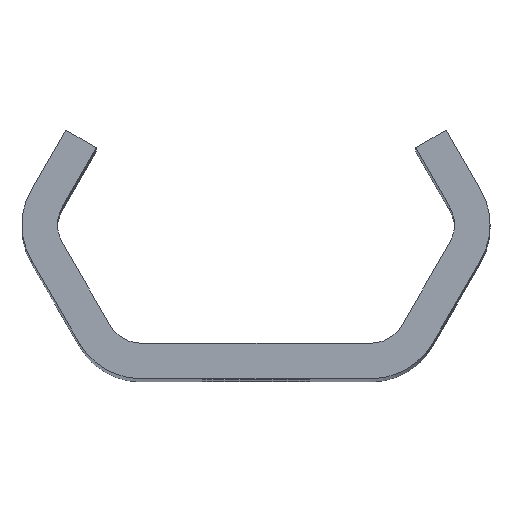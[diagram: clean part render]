
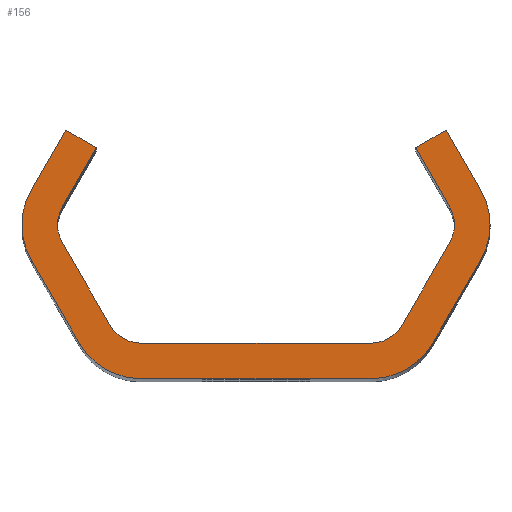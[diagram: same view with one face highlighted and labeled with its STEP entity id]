
A CAD part, top view. The second image highlights one B-rep face of the part: STEP entity #156.
In plain terms, the highlighted planar face has unit normal (0, 0, 1).
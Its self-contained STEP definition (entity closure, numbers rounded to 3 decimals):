
#156=ADVANCED_FACE('NONE',(#380),#381,.F.);
#380=FACE_OUTER_BOUND('',#1008,.T.);
#381=PLANE('',#1009);
#1008=EDGE_LOOP('',(#1962,#1963,#1964,#1965,#1966,#1967,#1968,#1969,#1970,#1971,#1972,#1973,#1974,#1975,#1976,#1977,#1978,#1979,#1980,#1981,#1982,#1983,#1984,#1985));
#1009=AXIS2_PLACEMENT_3D('',#1986,#1987,#1988);
#1962=ORIENTED_EDGE('',*,*,#2653,.T.);
#1963=ORIENTED_EDGE('',*,*,#2666,.T.);
#1964=ORIENTED_EDGE('',*,*,#2568,.T.);
#1965=ORIENTED_EDGE('',*,*,#2655,.T.);
#1966=ORIENTED_EDGE('',*,*,#2667,.T.);
#1967=ORIENTED_EDGE('',*,*,#2659,.T.);
#1968=ORIENTED_EDGE('',*,*,#2668,.T.);
#1969=ORIENTED_EDGE('',*,*,#2575,.T.);
#1970=ORIENTED_EDGE('',*,*,#2669,.T.);
#1971=ORIENTED_EDGE('',*,*,#2531,.T.);
#1972=ORIENTED_EDGE('',*,*,#2578,.T.);
#1973=ORIENTED_EDGE('',*,*,#2584,.T.);
#1974=ORIENTED_EDGE('',*,*,#2587,.T.);
#1975=ORIENTED_EDGE('',*,*,#2565,.T.);
#1976=ORIENTED_EDGE('',*,*,#2670,.T.);
#1977=ORIENTED_EDGE('',*,*,#2589,.T.);
#1978=ORIENTED_EDGE('',*,*,#2671,.T.);
#1979=ORIENTED_EDGE('',*,*,#2596,.T.);
#1980=ORIENTED_EDGE('',*,*,#2672,.T.);
#1981=ORIENTED_EDGE('',*,*,#2640,.T.);
#1982=ORIENTED_EDGE('',*,*,#2673,.T.);
#1983=ORIENTED_EDGE('',*,*,#2526,.T.);
#1984=ORIENTED_EDGE('',*,*,#2643,.T.);
#1985=ORIENTED_EDGE('',*,*,#2649,.T.);
#1986=CARTESIAN_POINT('',(0.0,0.0,160.0));
#1987=DIRECTION('',(0.0,0.0,-1.0));
#1988=DIRECTION('',(0.0,-1.0,0.0));
#2526=EDGE_CURVE('NONE',#2840,#2844,#2846,.T.);
#2531=EDGE_CURVE('NONE',#2849,#2853,#2855,.T.);
#2565=EDGE_CURVE('NONE',#2916,#2914,#2917,.T.);
#2568=EDGE_CURVE('NONE',#2920,#2921,#2922,.T.);
#2575=EDGE_CURVE('NONE',#2934,#2932,#2935,.T.);
#2578=EDGE_CURVE('NONE',#2853,#2938,#2939,.T.);
#2584=EDGE_CURVE('NONE',#2938,#2946,#2948,.T.);
#2587=EDGE_CURVE('NONE',#2946,#2916,#2951,.T.);
#2589=EDGE_CURVE('NONE',#2953,#2954,#2955,.T.);
#2596=EDGE_CURVE('NONE',#2967,#2965,#2968,.T.);
#2640=EDGE_CURVE('NONE',#3050,#3048,#3051,.T.);
#2643=EDGE_CURVE('NONE',#2844,#3054,#3055,.T.);
#2649=EDGE_CURVE('NONE',#3054,#3062,#3064,.T.);
#2653=EDGE_CURVE('NONE',#3062,#3068,#3070,.T.);
#2655=EDGE_CURVE('NONE',#2921,#3072,#3073,.T.);
#2659=EDGE_CURVE('NONE',#3078,#3079,#3080,.T.);
#2666=EDGE_CURVE('NONE',#3068,#2920,#3089,.T.);
#2667=EDGE_CURVE('NONE',#3072,#3078,#3090,.T.);
#2668=EDGE_CURVE('NONE',#3079,#2934,#3091,.T.);
#2669=EDGE_CURVE('NONE',#2932,#2849,#3092,.T.);
#2670=EDGE_CURVE('NONE',#2914,#2953,#3093,.T.);
#2671=EDGE_CURVE('NONE',#2954,#2967,#3094,.T.);
#2672=EDGE_CURVE('NONE',#2965,#3050,#3095,.T.);
#2673=EDGE_CURVE('NONE',#3048,#2840,#3096,.T.);
#2840=VERTEX_POINT('',#3308);
#2844=VERTEX_POINT('NONE',#3313);
#2846=CIRCLE('',#3316,3.0);
#2849=VERTEX_POINT('',#3319);
#2853=VERTEX_POINT('NONE',#3324);
#2855=CIRCLE('',#3327,6.0);
#2914=VERTEX_POINT('NONE',#3740);
#2916=VERTEX_POINT('NONE',#3743);
#2917=CIRCLE('',#3744,3.0);
#2920=VERTEX_POINT('NONE',#3748);
#2921=VERTEX_POINT('NONE',#3749);
#2922=CIRCLE('',#3750,6.0);
#2932=VERTEX_POINT('NONE',#3763);
#2934=VERTEX_POINT('NONE',#3766);
#2935=LINE('',#3767,#3768);
#2938=VERTEX_POINT('NONE',#3772);
#2939=LINE('',#3773,#3774);
#2946=VERTEX_POINT('NONE',#3784);
#2948=LINE('',#3787,#3788);
#2951=LINE('',#3792,#3793);
#2953=VERTEX_POINT('NONE',#3795);
#2954=VERTEX_POINT('NONE',#3796);
#2955=LINE('',#3797,#3798);
#2965=VERTEX_POINT('NONE',#3812);
#2967=VERTEX_POINT('NONE',#3815);
#2968=LINE('',#3816,#3817);
#3048=VERTEX_POINT('NONE',#4099);
#3050=VERTEX_POINT('NONE',#4102);
#3051=LINE('',#4103,#4104);
#3054=VERTEX_POINT('NONE',#4108);
#3055=LINE('',#4109,#4110);
#3062=VERTEX_POINT('NONE',#4120);
#3064=LINE('',#4123,#4124);
#3068=VERTEX_POINT('NONE',#4129);
#3070=LINE('',#4132,#4133);
#3072=VERTEX_POINT('NONE',#4135);
#3073=LINE('',#4136,#4137);
#3078=VERTEX_POINT('NONE',#4144);
#3079=VERTEX_POINT('NONE',#4145);
#3080=LINE('',#4146,#4147);
#3089=CIRCLE('',#4159,6.0);
#3090=CIRCLE('',#4160,6.0);
#3091=CIRCLE('',#4161,6.0);
#3092=CIRCLE('',#4162,6.0);
#3093=CIRCLE('',#4163,3.0);
#3094=CIRCLE('',#4164,3.0);
#3095=CIRCLE('',#4165,3.0);
#3096=CIRCLE('',#4166,3.0);
#3308=CARTESIAN_POINT('',(-16.764,0.,160.0));
#3313=CARTESIAN_POINT('',(-16.362,1.5,160.0));
#3316=AXIS2_PLACEMENT_3D('',#4831,#4832,#4833);
#3319=CARTESIAN_POINT('',(19.764,0.,160.0));
#3324=CARTESIAN_POINT('',(18.96,3.,160.0));
#3327=AXIS2_PLACEMENT_3D('',#4839,#4840,#4841);
#3740=CARTESIAN_POINT('',(16.764,0.,160.0));
#3743=CARTESIAN_POINT('',(16.362,1.5,160.0));
#3744=AXIS2_PLACEMENT_3D('',#4870,#4871,#4872);
#3748=CARTESIAN_POINT('',(-19.764,0.,160.0));
#3749=CARTESIAN_POINT('',(-18.96,-3.,160.0));
#3750=AXIS2_PLACEMENT_3D('',#4874,#4875,#4876);
#3763=CARTESIAN_POINT('',(18.96,-3.,160.0));
#3766=CARTESIAN_POINT('',(14.919,-10.,160.0));
#3767=CARTESIAN_POINT('',(20.692,0.,160.0));
#3768=VECTOR('',#4884,1000.0);
#3772=CARTESIAN_POINT('',(16.074,8.,160.0));
#3773=CARTESIAN_POINT('',(16.074,8.,160.0));
#3774=VECTOR('',#4886,1000.0);
#3784=CARTESIAN_POINT('',(13.475,6.5,160.0));
#3787=CARTESIAN_POINT('',(13.475,6.5,160.0));
#3788=VECTOR('',#4891,1000.0);
#3792=CARTESIAN_POINT('',(17.228,0.,160.0));
#3793=VECTOR('',#4893,1000.0);
#3795=CARTESIAN_POINT('',(16.362,-1.5,160.0));
#3796=CARTESIAN_POINT('',(12.321,-8.5,160.0));
#3797=CARTESIAN_POINT('',(11.455,-10.0,160.0));
#3798=VECTOR('',#4894,1000.0);
#3812=CARTESIAN_POINT('',(-9.723,-10.0,160.0));
#3815=CARTESIAN_POINT('',(9.723,-10.0,160.0));
#3816=CARTESIAN_POINT('',(-11.455,-10.0,160.0));
#3817=VECTOR('',#4900,1000.0);
#4099=CARTESIAN_POINT('',(-16.362,-1.5,160.0));
#4102=CARTESIAN_POINT('',(-12.321,-8.5,160.0));
#4103=CARTESIAN_POINT('',(-17.228,0.,160.0));
#4104=VECTOR('',#4943,1000.0);
#4108=CARTESIAN_POINT('',(-13.475,6.5,160.0));
#4109=CARTESIAN_POINT('',(-13.475,6.5,160.0));
#4110=VECTOR('',#4945,1000.0);
#4120=CARTESIAN_POINT('',(-16.074,8.,160.0));
#4123=CARTESIAN_POINT('',(-13.475,6.5,160.0));
#4124=VECTOR('',#4950,1000.0);
#4129=CARTESIAN_POINT('',(-18.96,3.,160.0));
#4132=CARTESIAN_POINT('',(-16.074,8.,160.0));
#4133=VECTOR('',#4953,1000.0);
#4135=CARTESIAN_POINT('',(-14.919,-10.,160.0));
#4136=CARTESIAN_POINT('',(-20.692,0.,160.0));
#4137=VECTOR('',#4954,1000.0);
#4144=CARTESIAN_POINT('',(-9.723,-13.0,160.0));
#4145=CARTESIAN_POINT('',(9.723,-13.0,160.0));
#4146=CARTESIAN_POINT('',(-13.187,-13.0,160.0));
#4147=VECTOR('',#4957,1000.0);
#4159=AXIS2_PLACEMENT_3D('',#4967,#4968,#4969);
#4160=AXIS2_PLACEMENT_3D('',#4970,#4971,#4972);
#4161=AXIS2_PLACEMENT_3D('',#4973,#4974,#4975);
#4162=AXIS2_PLACEMENT_3D('',#4976,#4977,#4978);
#4163=AXIS2_PLACEMENT_3D('',#4979,#4980,#4981);
#4164=AXIS2_PLACEMENT_3D('',#4982,#4983,#4984);
#4165=AXIS2_PLACEMENT_3D('',#4985,#4986,#4987);
#4166=AXIS2_PLACEMENT_3D('',#4988,#4989,#4990);
#4831=CARTESIAN_POINT('',(-13.764,0.,160.0));
#4832=DIRECTION('',(0.0,0.0,-1.0));
#4833=DIRECTION('',(-1.0,0.0,0.0));
#4839=CARTESIAN_POINT('',(13.764,0.,160.0));
#4840=DIRECTION('',(0.0,0.0,1.0));
#4841=DIRECTION('',(-1.0,0.0,0.0));
#4870=CARTESIAN_POINT('',(13.764,0.,160.0));
#4871=DIRECTION('',(0.0,0.0,-1.0));
#4872=DIRECTION('',(-1.0,0.0,0.0));
#4874=CARTESIAN_POINT('',(-13.764,0.,160.0));
#4875=DIRECTION('',(0.0,0.0,1.0));
#4876=DIRECTION('',(-1.0,0.0,0.0));
#4884=DIRECTION('',(0.5,0.866,-0.0));
#4886=DIRECTION('',(-0.5,0.866,-0.0));
#4891=DIRECTION('',(-0.866,-0.5,-0.0));
#4893=DIRECTION('',(0.5,-0.866,-0.0));
#4894=DIRECTION('',(-0.5,-0.866,-0.0));
#4900=DIRECTION('',(-1.0,0.,-0.0));
#4943=DIRECTION('',(-0.5,0.866,-0.0));
#4945=DIRECTION('',(0.5,0.866,-0.0));
#4950=DIRECTION('',(-0.866,0.5,0.0));
#4953=DIRECTION('',(-0.5,-0.866,0.0));
#4954=DIRECTION('',(0.5,-0.866,0.0));
#4957=DIRECTION('',(1.0,0.0,0.0));
#4967=CARTESIAN_POINT('',(-13.764,0.,160.0));
#4968=DIRECTION('',(0.0,0.0,1.0));
#4969=DIRECTION('',(-1.0,0.0,0.0));
#4970=CARTESIAN_POINT('',(-9.723,-7.0,160.0));
#4971=DIRECTION('',(0.0,0.0,1.0));
#4972=DIRECTION('',(-1.0,0.0,0.0));
#4973=CARTESIAN_POINT('',(9.723,-7.0,160.0));
#4974=DIRECTION('',(0.0,0.0,1.0));
#4975=DIRECTION('',(-1.0,0.,0.0));
#4976=CARTESIAN_POINT('',(13.764,0.,160.0));
#4977=DIRECTION('',(0.0,0.0,1.0));
#4978=DIRECTION('',(-1.0,0.0,0.0));
#4979=CARTESIAN_POINT('',(13.764,0.,160.0));
#4980=DIRECTION('',(0.0,0.0,-1.0));
#4981=DIRECTION('',(-1.0,0.0,0.0));
#4982=CARTESIAN_POINT('',(9.723,-7.0,160.0));
#4983=DIRECTION('',(0.0,0.0,-1.0));
#4984=DIRECTION('',(-1.0,0.0,0.0));
#4985=CARTESIAN_POINT('',(-9.723,-7.0,160.0));
#4986=DIRECTION('',(0.0,0.0,-1.0));
#4987=DIRECTION('',(-1.0,0.0,0.0));
#4988=CARTESIAN_POINT('',(-13.764,0.,160.0));
#4989=DIRECTION('',(0.0,0.0,-1.0));
#4990=DIRECTION('',(-1.0,0.0,0.0));
